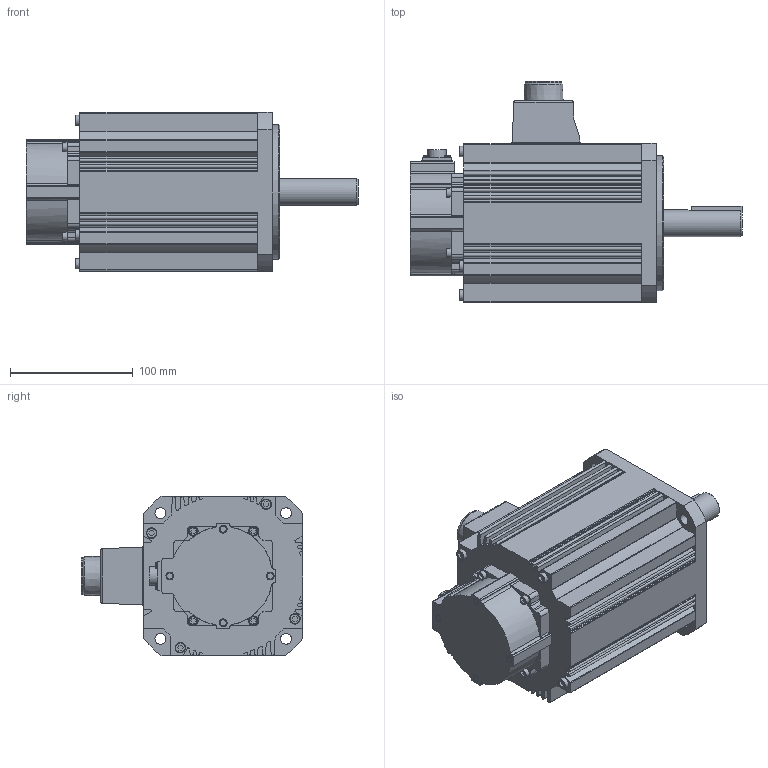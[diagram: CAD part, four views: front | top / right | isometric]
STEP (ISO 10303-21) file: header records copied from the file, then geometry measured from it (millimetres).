
FILE_DESCRIPTION( ( 'STEP AP0' ), '1' );
FILE_NAME( '//expscmdclustefs.cadenas.external/client_exchange/iodir/jobs/output/wkb64911832_no0/STEP/MHME104G1G_2_03.stp', ' ', ( ' ' ), ( ' ' ), 'PSStep 15.0.47', 'PARTsolutions', ' ' );
FILE_SCHEMA( ( 'CONFIG_CONTROL_DESIGN' ) );
Length unit declared in the file: millimetre
Products named in the file (1): HI_MHME104G1G
Bounding box: 271 x 181 x 130 mm (x, y, z)
Volume: 2702805.2 mm3; surface area: 172535.1 mm2
Topology: 1 solids, 1 shells, 544 faces, 1436 edges, 942 vertices
Faces by surface type: plane 281, cylinder 224, cone 18, torus 17, sphere 4
Full cylindrical faces by diameter (mm): 2.459 x1, 5.5 x4, 6.5 x4, 7 x4, 8.5 x4, 9 x4, 10.1 x4, 10.5 x4, 14.8 x1, 22 x1, 29.74 x1, 34 x1, 38 x1, 45 x1, 102 x1, 110 x1
Entity records: 16723 total; most frequent: CARTESIAN_POINT 3121, DIRECTION 2901, ORIENTED_EDGE 2708, EDGE_CURVE 1354, AXIS2_PLACEMENT_3D 1037, VERTEX_POINT 935, LINE 827, VECTOR 827
